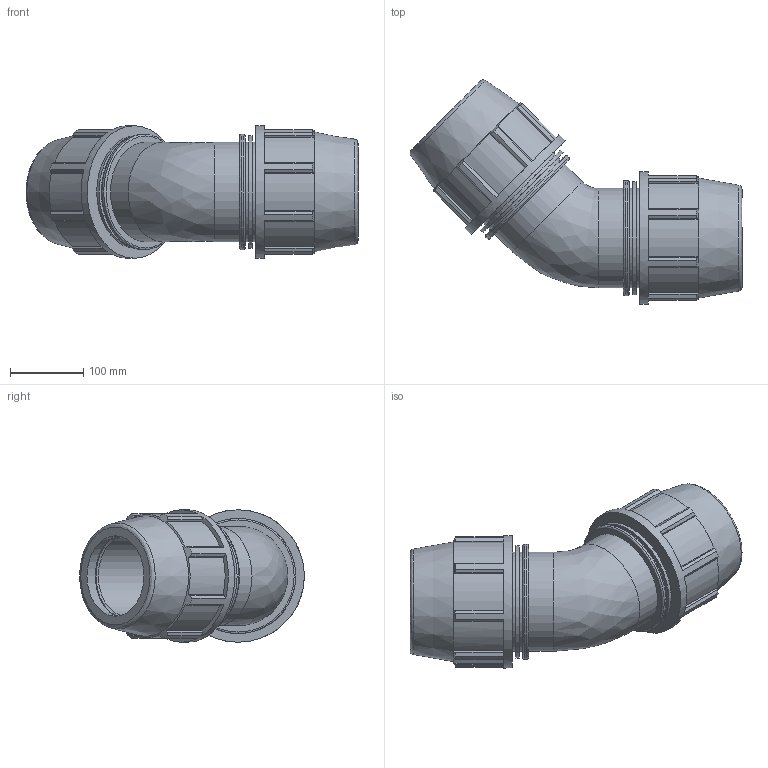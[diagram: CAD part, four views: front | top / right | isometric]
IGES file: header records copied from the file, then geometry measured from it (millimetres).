
Global section: file name: 870600110_180600110.ipt; native system: Autodesk Inventor 2015; preprocessor: unknown; author: Кирилл,,11,0; organization: 20170224.180708; date: 20170608.042505; units: millimetre
Bounding box: 453.47 x 306.97 x 181 mm (x, y, z)
Volume: 4327527.6 mm3; surface area: 478980.8 mm2
Topology: 1 solids, 1 shells, 140 faces, 388 edges, 262 vertices
Faces by surface type: plane 94, cylinder 28, revolution 14, cone 4
Full cylindrical faces by diameter (mm): 135.75 x6, 154.321 x2, 157.47 x2, 181 x2
